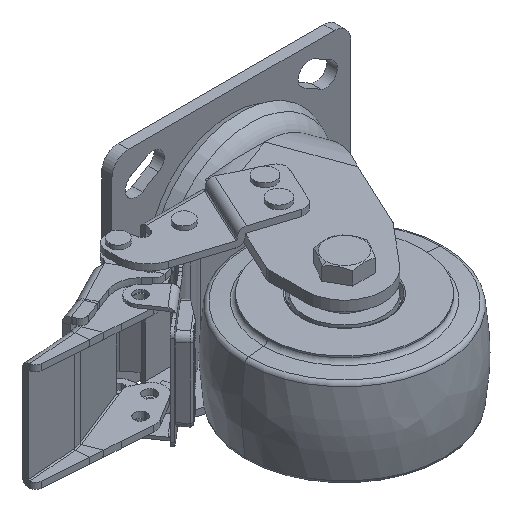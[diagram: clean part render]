
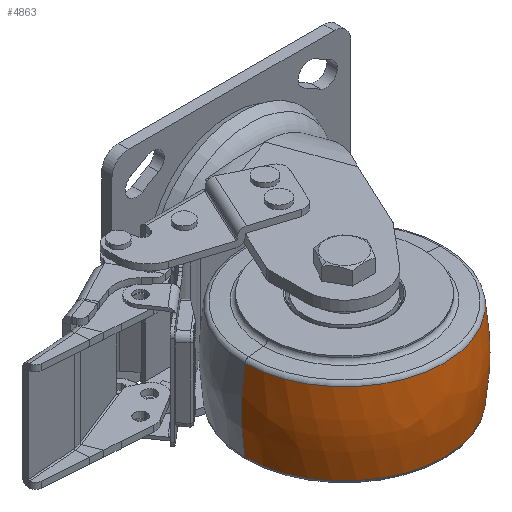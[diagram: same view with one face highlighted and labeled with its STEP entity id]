
A CAD part, isometric view. The second image highlights one B-rep face of the part: STEP entity #4863.
In plain terms, the highlighted free-form (B-spline) face has degree [3, 3] with [7, 4] control points.
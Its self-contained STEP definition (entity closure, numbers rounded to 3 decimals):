
#4277=CARTESIAN_POINT('',(0.,-76.741,0.));
#4278=DIRECTION('',(0.,0.,1.));
#4279=DIRECTION('',(0.156,0.988,0.));
#4280=AXIS2_PLACEMENT_3D('',#4277,#4278,#4279);
#4282=CARTESIAN_POINT('',(0.,76.741,0.));
#4283=DIRECTION('',(0.,0.,-1.));
#4284=DIRECTION('',(0.156,-0.988,0.));
#4285=AXIS2_PLACEMENT_3D('',#4282,#4283,#4284);
#4287=CARTESIAN_POINT('',(19.804,0.,0.));
#4288=DIRECTION('',(-1.,0.,0.));
#4289=DIRECTION('',(0.,1.,0.));
#4290=AXIS2_PLACEMENT_3D('',#4287,#4288,#4289);
#4302=CARTESIAN_POINT('',(-19.804,0.,0.));
#4303=DIRECTION('',(-1.,0.,0.));
#4304=DIRECTION('',(0.,1.,0.));
#4305=AXIS2_PLACEMENT_3D('',#4302,#4303,#4304);
#4454=CARTESIAN_POINT('',(19.804,48.443,0.));
#4455=VERTEX_POINT('',#4454);
#4456=CARTESIAN_POINT('',(-19.804,48.443,0.));
#4457=VERTEX_POINT('',#4456);
#4494=CARTESIAN_POINT('',(19.804,-48.443,
0.));
#4495=VERTEX_POINT('',#4494);
#4496=CARTESIAN_POINT('',(-19.804,-48.443,
0.));
#4497=VERTEX_POINT('',#4496);
#4827=CARTESIAN_POINT('',(-20.589,-48.221,
3.034));
#4828=CARTESIAN_POINT('',(-6.924,-50.466,
3.175));
#4829=CARTESIAN_POINT('',(6.924,-50.466,3.175));
#4830=CARTESIAN_POINT('',(20.589,-48.221,3.034));
#4831=CARTESIAN_POINT('',(-20.589,-50.088,
-26.641));
#4832=CARTESIAN_POINT('',(-6.924,-52.42,
-27.882));
#4833=CARTESIAN_POINT('',(6.924,-52.42,
-27.882));
#4834=CARTESIAN_POINT('',(20.589,-50.088,
-26.641));
#4835=CARTESIAN_POINT('',(-20.589,-29.734,
-48.316));
#4836=CARTESIAN_POINT('',(-6.924,-31.118,
-50.566));
#4837=CARTESIAN_POINT('',(6.924,-31.118,
-50.566));
#4838=CARTESIAN_POINT('',(20.589,-29.734,
-48.316));
#4839=CARTESIAN_POINT('',(-20.589,0.,
-48.316));
#4840=CARTESIAN_POINT('',(-6.924,0.,
-50.566));
#4841=CARTESIAN_POINT('',(6.924,0.,
-50.566));
#4842=CARTESIAN_POINT('',(20.589,0.,
-48.316));
#4843=CARTESIAN_POINT('',(-20.589,29.734,
-48.316));
#4844=CARTESIAN_POINT('',(-6.924,31.118,
-50.566));
#4845=CARTESIAN_POINT('',(6.924,31.118,-50.566));
#4846=CARTESIAN_POINT('',(20.589,29.734,-48.316));
#4847=CARTESIAN_POINT('',(-20.589,50.088,
-26.641));
#4848=CARTESIAN_POINT('',(-6.924,52.42,
-27.882));
#4849=CARTESIAN_POINT('',(6.924,52.42,-27.882));
#4850=CARTESIAN_POINT('',(20.589,50.088,-26.641));
#4851=CARTESIAN_POINT('',(-20.589,48.221,3.034));
#4852=CARTESIAN_POINT('',(-6.924,50.466,3.175));
#4853=CARTESIAN_POINT('',(6.924,50.466,3.175));
#4854=CARTESIAN_POINT('',(20.589,48.221,3.034));
#4855=(BOUNDED_SURFACE()B_SPLINE_SURFACE(3,3,((#4827,#4828,#4829,#4830),(#4831,
#4832,#4833,#4834),(#4835,#4836,#4837,#4838),(#4839,#4840,#4841,#4842),(#4843,
#4844,#4845,#4846),(#4847,#4848,#4849,#4850),(#4851,#4852,#4853,#4854)),
.UNSPECIFIED.,.F.,.F.,.F.)B_SPLINE_SURFACE_WITH_KNOTS((4,3,4),(4,4),(0.,1.,
2.),(0.,1.),.UNSPECIFIED.)GEOMETRIC_REPRESENTATION_ITEM()RATIONAL_B_SPLINE_SURFACE(((1.195,1.185,1.185,1.195),(
0.944,0.935,0.935,0.944),(
0.944,0.935,0.935,0.944),(
1.195,1.185,1.185,1.195),(
0.944,0.935,0.935,0.944),(
0.944,0.935,0.935,0.944),(
1.195,1.185,1.185,1.195)))REPRESENTATION_ITEM('')SURFACE());
#4856=ORIENTED_EDGE('',*,*,#4817,.T.);
#4858=ORIENTED_EDGE('',*,*,#4857,.T.);
#4859=ORIENTED_EDGE('',*,*,#4820,.F.);
#4860=ORIENTED_EDGE('',*,*,#4767,.F.);
#4861=EDGE_LOOP('',(#4856,#4858,#4859,#4860));
#4862=FACE_OUTER_BOUND('',#4861,.F.);
#4281=CIRCLE('',#4280,126.741);
#4286=CIRCLE('',#4285,126.741);
#4291=CIRCLE('',#4290,48.443);
#4306=CIRCLE('',#4305,48.443);
#4767=EDGE_CURVE('',#4455,#4495,#4291,.T.);
#4817=EDGE_CURVE('',#4455,#4457,#4281,.T.);
#4820=EDGE_CURVE('',#4495,#4497,#4286,.T.);
#4857=EDGE_CURVE('',#4457,#4497,#4306,.T.);
#4863=ADVANCED_FACE('',(#4862),#4855,.T.);
